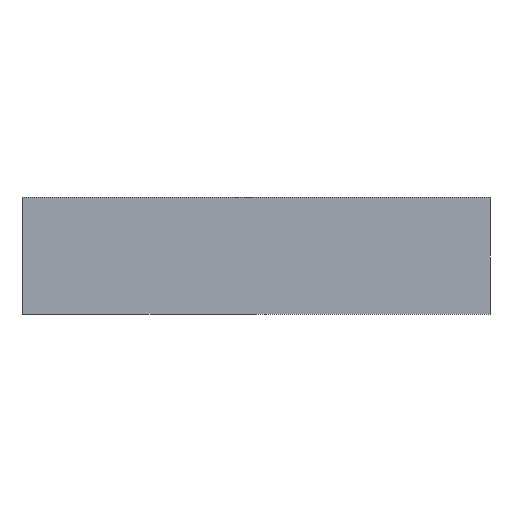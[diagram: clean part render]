
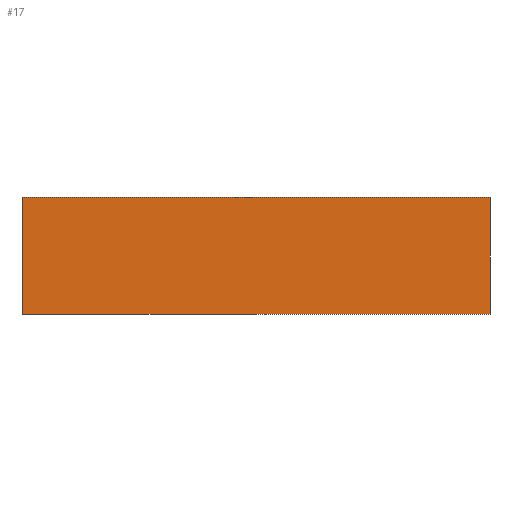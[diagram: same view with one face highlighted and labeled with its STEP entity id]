
A CAD part, left-side view. The second image highlights one B-rep face of the part: STEP entity #17.
In plain terms, the highlighted planar face has unit normal (-1, 0, 0).
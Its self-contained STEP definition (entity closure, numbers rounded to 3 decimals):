
#17 = ADVANCED_FACE('',(#18),#32,.F.);
#18 = FACE_BOUND('',#19,.F.);
#19 = EDGE_LOOP('',(#20,#55,#83,#111));
#20 = ORIENTED_EDGE('',*,*,#21,.F.);
#21 = EDGE_CURVE('',#22,#24,#26,.T.);
#22 = VERTEX_POINT('',#23);
#23 = CARTESIAN_POINT('',(0.,16.,4.));
#24 = VERTEX_POINT('',#25);
#25 = CARTESIAN_POINT('',(0.,16.,0.));
#26 = SURFACE_CURVE('',#27,(#31,#43),.PCURVE_S1.);
#27 = LINE('',#28,#29);
#28 = CARTESIAN_POINT('',(0.,16.,4.));
#29 = VECTOR('',#30,1.);
#30 = DIRECTION('',(0.,0.,-1.));
#31 = PCURVE('',#32,#37);
#32 = PLANE('',#33);
#33 = AXIS2_PLACEMENT_3D('',#34,#35,#36);
#34 = CARTESIAN_POINT('',(0.,16.,4.));
#35 = DIRECTION('',(1.,0.,0.));
#36 = DIRECTION('',(0.,0.,-1.));
#37 = DEFINITIONAL_REPRESENTATION('',(#38),#42);
#38 = LINE('',#39,#40);
#39 = CARTESIAN_POINT('',(0.,0.));
#40 = VECTOR('',#41,1.);
#41 = DIRECTION('',(1.,0.));
#42 = ( GEOMETRIC_REPRESENTATION_CONTEXT(2) 
PARAMETRIC_REPRESENTATION_CONTEXT() REPRESENTATION_CONTEXT('2D SPACE',''
  ) );
#43 = PCURVE('',#44,#49);
#44 = PLANE('',#45);
#45 = AXIS2_PLACEMENT_3D('',#46,#47,#48);
#46 = CARTESIAN_POINT('',(0.,16.,4.));
#47 = DIRECTION('',(0.,-1.,0.));
#48 = DIRECTION('',(0.,0.,-1.));
#49 = DEFINITIONAL_REPRESENTATION('',(#50),#54);
#50 = LINE('',#51,#52);
#51 = CARTESIAN_POINT('',(0.,0.));
#52 = VECTOR('',#53,1.);
#53 = DIRECTION('',(1.,0.));
#54 = ( GEOMETRIC_REPRESENTATION_CONTEXT(2) 
PARAMETRIC_REPRESENTATION_CONTEXT() REPRESENTATION_CONTEXT('2D SPACE',''
  ) );
#55 = ORIENTED_EDGE('',*,*,#56,.T.);
#56 = EDGE_CURVE('',#22,#57,#59,.T.);
#57 = VERTEX_POINT('',#58);
#58 = CARTESIAN_POINT('',(0.,0.,4.));
#59 = SURFACE_CURVE('',#60,(#64,#71),.PCURVE_S1.);
#60 = LINE('',#61,#62);
#61 = CARTESIAN_POINT('',(0.,16.,4.));
#62 = VECTOR('',#63,1.);
#63 = DIRECTION('',(0.,-1.,0.));
#64 = PCURVE('',#32,#65);
#65 = DEFINITIONAL_REPRESENTATION('',(#66),#70);
#66 = LINE('',#67,#68);
#67 = CARTESIAN_POINT('',(0.,0.));
#68 = VECTOR('',#69,1.);
#69 = DIRECTION('',(0.,-1.));
#70 = ( GEOMETRIC_REPRESENTATION_CONTEXT(2) 
PARAMETRIC_REPRESENTATION_CONTEXT() REPRESENTATION_CONTEXT('2D SPACE',''
  ) );
#71 = PCURVE('',#72,#77);
#72 = PLANE('',#73);
#73 = AXIS2_PLACEMENT_3D('',#74,#75,#76);
#74 = CARTESIAN_POINT('',(0.,16.,4.));
#75 = DIRECTION('',(0.,0.,-1.));
#76 = DIRECTION('',(1.,0.,0.));
#77 = DEFINITIONAL_REPRESENTATION('',(#78),#82);
#78 = LINE('',#79,#80);
#79 = CARTESIAN_POINT('',(0.,0.));
#80 = VECTOR('',#81,1.);
#81 = DIRECTION('',(0.,1.));
#82 = ( GEOMETRIC_REPRESENTATION_CONTEXT(2) 
PARAMETRIC_REPRESENTATION_CONTEXT() REPRESENTATION_CONTEXT('2D SPACE',''
  ) );
#83 = ORIENTED_EDGE('',*,*,#84,.T.);
#84 = EDGE_CURVE('',#57,#85,#87,.T.);
#85 = VERTEX_POINT('',#86);
#86 = CARTESIAN_POINT('',(0.,0.,0.));
#87 = SURFACE_CURVE('',#88,(#92,#99),.PCURVE_S1.);
#88 = LINE('',#89,#90);
#89 = CARTESIAN_POINT('',(0.,0.,4.));
#90 = VECTOR('',#91,1.);
#91 = DIRECTION('',(0.,0.,-1.));
#92 = PCURVE('',#32,#93);
#93 = DEFINITIONAL_REPRESENTATION('',(#94),#98);
#94 = LINE('',#95,#96);
#95 = CARTESIAN_POINT('',(0.,-16.));
#96 = VECTOR('',#97,1.);
#97 = DIRECTION('',(1.,0.));
#98 = ( GEOMETRIC_REPRESENTATION_CONTEXT(2) 
PARAMETRIC_REPRESENTATION_CONTEXT() REPRESENTATION_CONTEXT('2D SPACE',''
  ) );
#99 = PCURVE('',#100,#105);
#100 = PLANE('',#101);
#101 = AXIS2_PLACEMENT_3D('',#102,#103,#104);
#102 = CARTESIAN_POINT('',(0.,0.,4.));
#103 = DIRECTION('',(0.,-1.,0.));
#104 = DIRECTION('',(0.,0.,-1.));
#105 = DEFINITIONAL_REPRESENTATION('',(#106),#110);
#106 = LINE('',#107,#108);
#107 = CARTESIAN_POINT('',(0.,0.));
#108 = VECTOR('',#109,1.);
#109 = DIRECTION('',(1.,0.));
#110 = ( GEOMETRIC_REPRESENTATION_CONTEXT(2) 
PARAMETRIC_REPRESENTATION_CONTEXT() REPRESENTATION_CONTEXT('2D SPACE',''
  ) );
#111 = ORIENTED_EDGE('',*,*,#112,.F.);
#112 = EDGE_CURVE('',#24,#85,#113,.T.);
#113 = SURFACE_CURVE('',#114,(#118,#125),.PCURVE_S1.);
#114 = LINE('',#115,#116);
#115 = CARTESIAN_POINT('',(0.,16.,0.));
#116 = VECTOR('',#117,1.);
#117 = DIRECTION('',(0.,-1.,0.));
#118 = PCURVE('',#32,#119);
#119 = DEFINITIONAL_REPRESENTATION('',(#120),#124);
#120 = LINE('',#121,#122);
#121 = CARTESIAN_POINT('',(4.,0.));
#122 = VECTOR('',#123,1.);
#123 = DIRECTION('',(0.,-1.));
#124 = ( GEOMETRIC_REPRESENTATION_CONTEXT(2) 
PARAMETRIC_REPRESENTATION_CONTEXT() REPRESENTATION_CONTEXT('2D SPACE',''
  ) );
#125 = PCURVE('',#126,#131);
#126 = PLANE('',#127);
#127 = AXIS2_PLACEMENT_3D('',#128,#129,#130);
#128 = CARTESIAN_POINT('',(0.,16.,0.));
#129 = DIRECTION('',(0.,0.,-1.));
#130 = DIRECTION('',(1.,0.,0.));
#131 = DEFINITIONAL_REPRESENTATION('',(#132),#136);
#132 = LINE('',#133,#134);
#133 = CARTESIAN_POINT('',(0.,0.));
#134 = VECTOR('',#135,1.);
#135 = DIRECTION('',(0.,1.));
#136 = ( GEOMETRIC_REPRESENTATION_CONTEXT(2) 
PARAMETRIC_REPRESENTATION_CONTEXT() REPRESENTATION_CONTEXT('2D SPACE',''
  ) );
